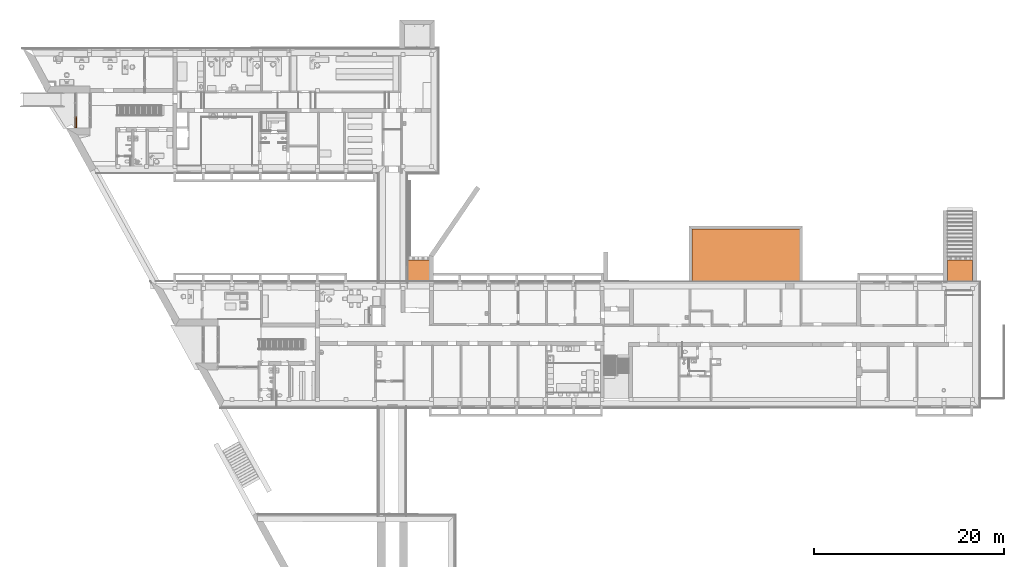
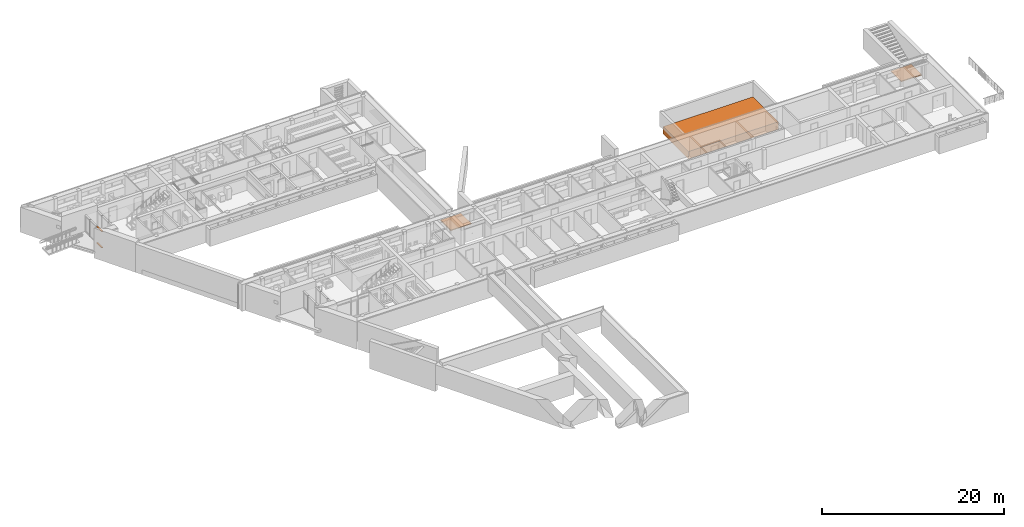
# One storey, part 115 of 127: 5 proxies, 1 element without a shape of its own.
"""IFC2X3 building model written with IfcOpenShell, lengths in millimetres."""

import ifcopenshell
import ifcopenshell.guid

model = None  # the IFC model being written
_history = None  # IfcOwnerHistory: only IFC2X3 demands one
_inside = {}  # id of a spatial element -> (the spatial element, [elements in it])
_under = {}  # id of a project, library or spatial element -> (it, [spatial elements below it])
_declared = {}  # id of a project -> (the project, [libraries it declares])
_typed = {}  # id of a type object -> (the type object, [elements of that type])
_made_of = {}  # id of a material, layer set ... -> (it, [elements and type objects made of it])


def new_model(schema):
    """Start an empty IFC model of exactly this schema.

    Asked for "IFC4X3", IfcOpenShell would pick the latest addendum, in which some entities
    have other attributes; the version numbers below select the first issue.
    IFC2X3 requires an IfcOwnerHistory on every rooted entity: one is made here for all.
    """
    global model, _history
    if schema == "IFC4X3":
        model = ifcopenshell.file(schema_version=(4, 3, 0, 0))
    else:
        model = ifcopenshell.file(schema=schema)
    _inside.clear()
    _under.clear()
    _declared.clear()
    _typed.clear()
    _made_of.clear()
    _history = None
    if model.schema == "IFC2X3":
        org = make("IfcOrganization", Name="unknown")
        user = make(
            "IfcPersonAndOrganization",
            ThePerson=make("IfcPerson", FamilyName="unknown"),
            TheOrganization=org,
        )
        app = make(
            "IfcApplication",
            ApplicationDeveloper=org,
            Version="unknown",
            ApplicationFullName="unknown",
            ApplicationIdentifier="unknown",
        )
        _history = make(
            "IfcOwnerHistory",
            OwningUser=user,
            OwningApplication=app,
            ChangeAction="ADDED",
            CreationDate=0,
        )
    return model


def make(cls, **values):
    """One entity of the class cls with the attributes given. An attribute that is None is left unset."""
    return model.create_entity(
        cls, **{name: value for name, value in values.items() if value is not None}
    )


def entity(cls, *values):
    """Any entity or typed value of the class cls, its attributes in the order of the schema. None: left unset."""
    e = model.create_entity(cls)
    for i, value in enumerate(values):
        if value is not None:
            e[i] = value
    return e


def rooted(cls, **values):
    """An entity with a GlobalId (a new one), such as an element, a storey or a relation."""
    return make(cls, GlobalId=ifcopenshell.guid.new(), OwnerHistory=_history, **values)


def si_unit(unit_type, name, prefix=None):
    """IfcSIUnit, for example si_unit("LENGTHUNIT", "METRE", prefix="MILLI")."""
    return make("IfcSIUnit", UnitType=unit_type, Prefix=prefix, Name=name)


def converted_unit(unit_type, name, factor, base, dimensions=None, offset=None):
    """IfcConversionBasedUnit, such as the inch: factor (a typed value) times the base unit."""
    return make(
        "IfcConversionBasedUnit"
        if offset is None
        else "IfcConversionBasedUnitWithOffset",
        ConversionOffset=offset,
        Dimensions=None
        if dimensions is None
        else entity("IfcDimensionalExponents", *dimensions),
        UnitType=unit_type,
        Name=name,
        ConversionFactor=make(
            "IfcMeasureWithUnit", ValueComponent=factor, UnitComponent=base
        ),
    )


def derived_unit(unit_type, elements):
    """IfcDerivedUnit: a product of units, each with its exponent."""
    return make(
        "IfcDerivedUnit",
        Elements=[
            make("IfcDerivedUnitElement", Unit=unit, Exponent=power)
            for unit, power in elements
        ],
        UnitType=unit_type,
    )


def money_unit(currency):
    """IfcMonetaryUnit."""
    return make("IfcMonetaryUnit", Currency=currency)


def assignment(units):
    """IfcUnitAssignment: the units of a project."""
    return None if units is None else make("IfcUnitAssignment", Units=units)


def point(xyz):
    """IfcCartesianPoint."""
    return None if xyz is None else make("IfcCartesianPoint", Coordinates=xyz)


def direction(xyz):
    """IfcDirection."""
    return None if xyz is None else make("IfcDirection", DirectionRatios=xyz)


def frame(location, z_axis=None, x_axis=None):
    """IfcAxis2Placement3D, a coordinate frame: its origin and axes. An axis left out is left unset."""
    return make(
        "IfcAxis2Placement3D",
        Location=point(location),
        Axis=direction(z_axis),
        RefDirection=direction(x_axis),
    )


def origin_with_axes():
    """The frame at (0, 0, 0) with the z axis (0, 0, 1) and the x axis (1, 0, 0) written out."""
    return frame((0.0, 0.0, 0.0), z_axis=(0.0, 0.0, 1.0), x_axis=(1.0, 0.0, 0.0))


def place(relative_to, where):
    """IfcLocalPlacement: puts the frame where relative to a parent placement (None: the world)."""
    return make(
        "IfcLocalPlacement", PlacementRelTo=relative_to, RelativePlacement=where
    )


def context(
    kind, dimensions, precision=None, world=None, true_north=None, identifier=None
):
    """IfcGeometricRepresentationContext, for example the 3D "Model" context."""
    return make(
        "IfcGeometricRepresentationContext",
        ContextIdentifier=identifier,
        ContextType=kind,
        CoordinateSpaceDimension=dimensions,
        Precision=precision,
        WorldCoordinateSystem=world,
        TrueNorth=true_north,
    )


def subcontext(parent, identifier, kind, view, scale=None):
    """IfcGeometricRepresentationSubContext, for example "Body" below "Model"."""
    return make(
        "IfcGeometricRepresentationSubContext",
        ContextIdentifier=identifier,
        ContextType=kind,
        ParentContext=parent,
        TargetScale=scale,
        TargetView=view,
    )


def project(units=None, contexts=None):
    """IfcProject with its units and contexts."""
    return rooted(
        "IfcProject",
        Name="project",
        RepresentationContexts=contexts,
        UnitsInContext=assignment(units),
    )


def spatial(cls, under=None, at=None, **own):
    """A site, building, storey or space (cls), placed at a placement, below another one or the project."""
    s = rooted(cls, ObjectPlacement=at, **own)
    if under is not None:
        _under.setdefault(under.id(), (under, []))[1].append(s)
    return s


def polyline(points):
    """IfcPolyline through the points."""
    return make("IfcPolyline", Points=[point(p) for p in points])


def outline(outer, holes=None, kind="AREA"):
    """IfcArbitraryClosedProfileDef: a profile drawn as a closed curve; with holes, ...WithVoids."""
    if holes is None:
        return make("IfcArbitraryClosedProfileDef", ProfileType=kind, OuterCurve=outer)
    return make(
        "IfcArbitraryProfileDefWithVoids",
        ProfileType=kind,
        OuterCurve=outer,
        InnerCurves=holes,
    )


def extrude(swept, where, along, depth):
    """IfcExtrudedAreaSolid: the profile swept, set in the frame where, extruded along a direction by depth."""
    return make(
        "IfcExtrudedAreaSolid",
        SweptArea=swept,
        Position=where,
        ExtrudedDirection=direction(along),
        Depth=depth,
    )


def shape(context_of_items, identifier, shape_type, items):
    """IfcShapeRepresentation: the items that make up one representation, for example the "Body"."""
    return make(
        "IfcShapeRepresentation",
        ContextOfItems=context_of_items,
        RepresentationIdentifier=identifier,
        RepresentationType=shape_type,
        Items=items,
    )


def material(Name=None, Category=None):
    """IfcMaterial."""
    return make("IfcMaterial", Name=Name, Category=Category)


def made_of(thing, what):
    """Note that an element or type object is made of a material, layer set ...; save() writes the relation."""
    if what is not None:
        _made_of.setdefault(what.id(), (what, []))[1].append(thing)
    return thing


def type_object(cls, material=None, **own):
    """A type object (cls), such as IfcWallType, which elements share."""
    return made_of(rooted(cls, **own), material)


def element(
    cls,
    number,
    at=None,
    inside=None,
    cuts=None,
    type_object=None,
    material=None,
    context=None,
    identifier="Body",
    shape_type=None,
    held_by="IfcProductDefinitionShape",
    body=None,
    shapes=None,
    **own,
):
    """One element of the class cls, such as IfcWall. Its Tag is "e" and its number.

    at: its placement. inside: the storey or other place that contains it. cuts: it is an
    opening in that element (IfcRelVoidsElement). A single representation is given by context,
    identifier, shape_type and body (its items); several are given by shapes. held_by: the class
    of the entity that holds the representations. save() writes the other relations.
    """
    e = rooted(cls, Tag="e%d" % number, ObjectPlacement=at, **own)
    if body is not None:
        shapes = [shape(context, identifier, shape_type, body)]
    if shapes is not None:
        e.Representation = make(held_by, Representations=shapes)
    if inside is not None:
        _inside.setdefault(inside.id(), (inside, []))[1].append(e)
    if cuts is not None:
        rooted(
            "IfcRelVoidsElement", RelatingBuildingElement=cuts, RelatedOpeningElement=e
        )
    if type_object is not None:
        _typed.setdefault(type_object.id(), (type_object, []))[1].append(e)
    return made_of(e, material)


def aggregate(whole, parts):
    """IfcRelAggregates: a whole, such as a stair, and the parts it consists of."""
    return rooted("IfcRelAggregates", RelatingObject=whole, RelatedObjects=parts)


def save(model, path):
    """Write the relations noted so far, then the file.

    IfcRelAggregates (storeys below a building ...), IfcRelContainedInSpatialStructure (elements
    in a storey), IfcRelDefinesByType, IfcRelAssociatesMaterial and IfcRelDeclares: one each for
    every whole, place, type object, material and project.
    """
    for whole, parts in _under.values():
        aggregate(whole, parts)
    for where, things in _inside.values():
        rooted(
            "IfcRelContainedInSpatialStructure",
            RelatedElements=things,
            RelatingStructure=where,
        )
    for kind, things in _typed.values():
        rooted("IfcRelDefinesByType", RelatedObjects=things, RelatingType=kind)
    for what, things in _made_of.values():
        rooted("IfcRelAssociatesMaterial", RelatedObjects=things, RelatingMaterial=what)
    for by, libraries in _declared.values():
        rooted("IfcRelDeclares", RelatingContext=by, RelatedDefinitions=libraries)
    model.write(path)


model = new_model("IFC2X3")

# Units and contexts
model_context = context("Model", 3, precision=1e-05, world=origin_with_axes(), true_north=direction((0.0, 1.0)))
body_context = subcontext(model_context, "Body", "Model", "MODEL_VIEW")
ifc_project = project(units=[si_unit("LENGTHUNIT", "METRE", prefix="MILLI"), si_unit("AREAUNIT", "SQUARE_METRE"), si_unit("VOLUMEUNIT", "CUBIC_METRE"), converted_unit("PLANEANGLEUNIT", "DEGREE", entity("IfcPlaneAngleMeasure", 0.0174532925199), si_unit("PLANEANGLEUNIT", "RADIAN"), dimensions=[0, 0, 0, 0, 0, 0, 0]), si_unit("SOLIDANGLEUNIT", "STERADIAN"), money_unit("EUR"), converted_unit("TIMEUNIT", "Year", entity("IfcTimeMeasure", 31556926.0), si_unit("TIMEUNIT", "SECOND"), dimensions=[0, 0, 1, 0, 0, 0, 0]), si_unit("MASSUNIT", "GRAM", prefix="KILO"), si_unit("THERMODYNAMICTEMPERATUREUNIT", "DEGREE_CELSIUS"), si_unit("LUMINOUSINTENSITYUNIT", "LUMEN"), si_unit("ENERGYUNIT", "JOULE", prefix="MEGA"), derived_unit("THERMALCONDUCTANCEUNIT", [(si_unit("POWERUNIT", "WATT"), 1), (si_unit("LENGTHUNIT", "METRE"), -1), (si_unit("THERMODYNAMICTEMPERATUREUNIT", "KELVIN"), -1)]), derived_unit("SPECIFICHEATCAPACITYUNIT", [(si_unit("ENERGYUNIT", "JOULE"), 1), (si_unit("MASSUNIT", "GRAM", prefix="KILO"), -1), (si_unit("THERMODYNAMICTEMPERATUREUNIT", "KELVIN"), -1)]), derived_unit("MASSDENSITYUNIT", [(si_unit("MASSUNIT", "GRAM", prefix="KILO"), 1), (si_unit("VOLUMEUNIT", "CUBIC_METRE"), -1)])], contexts=[model_context])

# Site, building, storey
site_placement = place(None, origin_with_axes())
site = spatial("IfcSite", under=ifc_project, at=site_placement, Name="Site", CompositionType="ELEMENT")
building_placement = place(site_placement, origin_with_axes())
building = spatial("IfcBuilding", under=site, at=building_placement, Name="Building", CompositionType="ELEMENT")
storey_placement = place(building_placement, origin_with_axes())
storey = spatial("IfcBuildingStorey", under=building, at=storey_placement, Name="1 KORRUS", CompositionType="ELEMENT", Elevation=0.0)

# Proxies
ifc_material_1 = material(Name="MAA")
building_element_proxy_type_1 = type_object("IfcBuildingElementProxyType", Name="SLA - 003", PredefinedType="NOTDEFINED")
proxy_1_placement = place(storey_placement, frame((70375.0330297, 47408.7264628, 0.0), z_axis=(0.0, 0.0, 1.0), x_axis=(1.0, 0.0, 0.0)))
element("IfcBuildingElementProxy", 1, at=proxy_1_placement, inside=storey, type_object=building_element_proxy_type_1, material=ifc_material_1, Name="MAA;  Objekti nimi:", context=body_context, shape_type="SweptSolid", body=[
    extrude(outline(polyline([(0.0, 0.0), (11392.7334653, 0.0), (11392.7334653, 5529.60215676), (0.0, 5529.60215676), (0.0, 0.0)])), frame((0.0, 0.0, -1000.0), z_axis=(0.0, 0.0, 1.0), x_axis=(1.0, 0.0, 0.0)), (0.0, 0.0, 1.0), 1000.0),
])
ifc_material_2 = material(Name="Betoon - Ol.Olev konstruktsioon")
building_element_proxy_type_2 = type_object("IfcBuildingElementProxyType", Name="BET.PORAND", PredefinedType="NOTDEFINED")
proxy_2_placement = place(storey_placement, frame((99913.9759381, 49682.1574173, 0.0), z_axis=(0.0, 0.0, 1.0), x_axis=(1.0, 0.0, 0.0)))
element("IfcBuildingElementProxy", 2, at=proxy_2_placement, inside=storey, type_object=building_element_proxy_type_2, material=ifc_material_2, Name="Betoon - Ol.Olev konstruktsioon;  Objekti nimi:", context=body_context, shape_type="SweptSolid", body=[
    extrude(outline(polyline([(0.0, 0.0), (-2605.41680182, 0.0), (-2605.41680182, -2295.37206003), (-0.480173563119, -2295.37206003), (0.0, 0.0)])), frame((0.0, 0.0, -100.0), z_axis=(0.0, 0.0, 1.0), x_axis=(1.0, 0.0, 0.0)), (0.0, 0.0, 1.0), 100.0),
])
building_element_proxy_type_3 = type_object("IfcBuildingElementProxyType", Name="SLA - 002", PredefinedType="NOTDEFINED")
proxy_3_placement = place(storey_placement, frame((42896.2775517, 49682.1635924, 0.0), z_axis=(0.0, 0.0, 1.0), x_axis=(1.0, 0.0, 0.0)))
element("IfcBuildingElementProxy", 3, at=proxy_3_placement, inside=storey, type_object=building_element_proxy_type_3, material=ifc_material_2, Name="Betoon - Ol.Olev konstruktsioon;  Objekti nimi:", context=body_context, shape_type="SweptSolid", body=[
    extrude(outline(polyline([(0.0, 0.0), (-2605.41166048, 0.0), (-2605.41166048, -2270.79514973), (-0.47503222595, -2270.79514973), (0.0, 0.0)])), frame((0.0, 0.0, -100.0), z_axis=(0.0, 0.0, 1.0), x_axis=(1.0, 0.0, 0.0)), (0.0, 0.0, 1.0), 100.0),
])

# Curtain wall, proxies
curtain_wall_type = type_object("IfcCurtainWallType", Name="VU-1", PredefinedType="NOTDEFINED")
curtain_wall_placement = place(storey_placement, frame((5451.67242151, 65433.4489779, 25.0), z_axis=(0.0, 0.0, 1.0), x_axis=(1.0, 0.0, 0.0)))
curtain_wall = element("IfcCurtainWall", 4, at=curtain_wall_placement, inside=storey, type_object=curtain_wall_type, Name="Välisuks")
ifc_material_3 = material(Name="Alumiinium (1)")
building_element_proxy_type_4 = type_object("IfcBuildingElementProxyType", Name="Frame-Bnd-111", PredefinedType="NOTDEFINED")
proxy_4_placement = place(curtain_wall_placement, frame((0.0, -1843.3040286, 0.0), z_axis=(0.0, 1.0, 0.0), x_axis=(0.0, 0.0, 1.0)))
proxy_4 = element("IfcBuildingElementProxy", 5, at=proxy_4_placement, type_object=building_element_proxy_type_4, material=ifc_material_3, Name="Alumiinium (1);  Objekti nimi: Built-in Frame", context=body_context, shape_type="SweptSolid", body=[
    extrude(outline(polyline([(9.99999999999, 0.0), (9.99999999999, -25.0), (150.0, -25.0), (150.0, 25.0), (-50.0, 25.0), (-50.0, -25.0), (-9.99999999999, -25.0), (-9.99999999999, 0.0), (9.99999999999, 0.0)])), frame((0.0, 0.0, 0.0), z_axis=(0.0, 0.0, 1.0), x_axis=(0.0, 1.0, 0.0)), (0.0, 0.0, 1.0), 1150.0),
])
building_element_proxy_type_5 = type_object("IfcBuildingElementProxyType", Name="Frame-Bnd-117", PredefinedType="NOTDEFINED")
proxy_5_placement = place(curtain_wall_placement, frame((0.0, -1843.3040286, 2150.0), z_axis=(0.0, 1.0, 0.0), x_axis=(0.0, 0.0, 1.0)))
proxy_5 = element("IfcBuildingElementProxy", 6, at=proxy_5_placement, type_object=building_element_proxy_type_5, material=ifc_material_3, Name="Alumiinium (1);  Objekti nimi: Built-in Frame", context=body_context, shape_type="SweptSolid", body=[
    extrude(outline(polyline([(9.99999999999, 0.0), (-9.99999999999, 0.0), (-9.99999999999, 25.0), (-50.0, 25.0), (-50.0, -25.0), (150.0, -25.0), (150.0, 25.0), (9.99999999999, 25.0), (9.99999999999, 0.0)])), frame((0.0, 0.0, 0.0), z_axis=(0.0, 0.0, 1.0), x_axis=(0.0, 1.0, 0.0)), (0.0, 0.0, 1.0), 1150.0),
])
aggregate(curtain_wall, [proxy_4, proxy_5])

save(model, "model.ifc")
